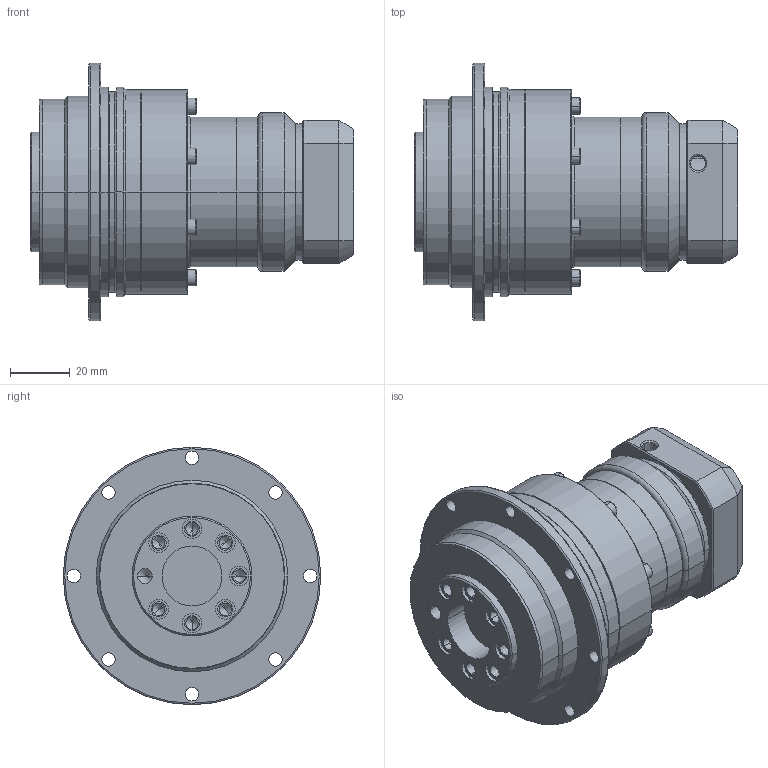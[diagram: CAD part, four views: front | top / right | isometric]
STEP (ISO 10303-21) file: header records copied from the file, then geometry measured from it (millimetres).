
FILE_DESCRIPTION((''),'2;1');
FILE_NAME('AD0642-P4110102_ASM','2006-05-24T',('D00080'),(''),'PRO/ENGINEER BY PARAMETRIC TECHNOLOGY CORPORATION, 2001280','PRO/ENGINEER BY PARAMETRIC TECHNOLOGY CORPORATION, 2001280','');
FILE_SCHEMA(('CONFIG_CONTROL_DESIGN'));
Length unit declared in the file: millimetre
Products named in the file (8): AD064-2; PH220001; 220120416; AD_RING_GEAR-SET2-2_ASM; PK710001; AD-COVER-SET-1_ASM; P4110102; AD0642-P4110102_ASM
Assembly tree (14 placements, depth 3):
  AD0642-P4110102_ASM
    AD064-2
    AD_RING_GEAR-SET2-2_ASM
      PH220001
      220120416  x8
    AD-COVER-SET-1_ASM
      PK710001
    P4110102
Bounding box: 108 x 86 x 86 mm (x, y, z)
Volume: 278648.2 mm3; surface area: 61252.6 mm2
Topology: 12 solids, 36 shells, 715 faces, 1597 edges, 946 vertices
Faces by surface type: cylinder 291, plane 202, cone 176, torus 46
Entity records: 14169 total; most frequent: DIRECTION 2759, CARTESIAN_POINT 2436, ORIENTED_EDGE 2078, AXIS2_PLACEMENT_3D 1168, EDGE_CURVE 1087, VERTEX_POINT 680, CIRCLE 639, EDGE_LOOP 613
